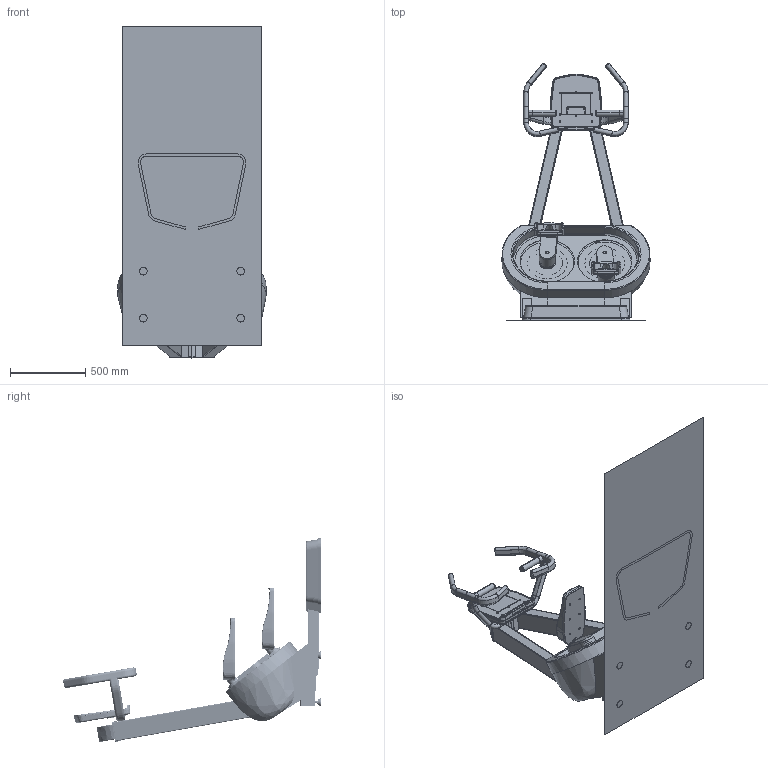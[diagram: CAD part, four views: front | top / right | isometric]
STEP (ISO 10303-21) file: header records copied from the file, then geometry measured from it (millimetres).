
FILE_DESCRIPTION (( 'STEP AP214' ), '1' );
FILE_NAME ('MR04_TILTED_03-06-2015_A.STEP', '2015-03-06T13:47:26', ( 'Andrew_Grove' ), ( 'Microsoft' ), 'SwSTEP 2.0', 'SolidWorks 2014', '' );
FILE_SCHEMA (( 'AUTOMOTIVE_DESIGN' ));
Length unit declared in the file: millimetre
Products named in the file (29): MR04_CONVERTABLE_FRAME_01_VERSION_03; GENERATOR_BRACKET_02; CRANK_ASSEMBLY_SIMPLIFIED_01_OPP_HAND_TILTED; MR04_TILTED_03-06-2015_A; CRANK_ASSEMBLY_SIMPLIFIED_01_TILTED_PEDAL_01; T_&_R_CRANK_COVER_01; MAIN_GEAR_SIMPLIFIED_01; Double D Washer; Spindle 9-29-2014; PEDAL_SHAFT_GEAR_SIMPLIFIED_01; R_&_T_SHROUD_01_TILTED_01; circlip for center bearing_Circlip DIN 471 - 20 x 1.2; S70_CONSOLE_06_TFT_05; CRANK_CENTER_GEAR_SIMPLIFIED_01; center T-stabilizer Foot step; M25 x 1 nut with set screws___; HANDLEBAR_01_CONNECTED_HANDLEBAR_01; PEDAL_ASSEMBLY_SIMPLIFIED_01_TILTED_01; FLOOR_01; RING_GEAR_SIMPLIFIED_01; PROTEUS_SEAT_01_VERSION_04; Pedal Part_TILTED_01_02-14-2015_VERSION; MR04_CONVERTABLE_FRAME_ASSEMBLY_01_TILTED_PEDALS_01; 14mm Nut___; SIMPLIFIED_JACK_SHAFT_01; M25 x 1 nut with set screws-Wide___; GENERATOR_ASSEMBLY_02; Crank 9-30-2014 Modified for 8mm Bolts_3 o clock (70-50-05) Rev-1; FB33D001_GENERATOR
Assembly tree (40 placements, depth 5):
  MR04_TILTED_03-06-2015_A
    MR04_CONVERTABLE_FRAME_ASSEMBLY_01_TILTED_PEDALS_01
      MR04_CONVERTABLE_FRAME_01_VERSION_03
      CRANK_ASSEMBLY_SIMPLIFIED_01_TILTED_PEDAL_01
        Crank 9-30-2014 Modified for 8mm Bolts_3 o clock (70-50-05) Rev-1
        M25 x 1 nut with set screws-Wide___
        14mm Nut___
        PEDAL_ASSEMBLY_SIMPLIFIED_01_TILTED_01
          Pedal Part_TILTED_01_02-14-2015_VERSION
          RING_GEAR_SIMPLIFIED_01
        M25 x 1 nut with set screws___
        CRANK_CENTER_GEAR_SIMPLIFIED_01
        circlip for center bearing_Circlip DIN 471 - 20 x 1.2
        PEDAL_SHAFT_GEAR_SIMPLIFIED_01
        Spindle 9-29-2014
        Double D Washer
        MAIN_GEAR_SIMPLIFIED_01
        T_&_R_CRANK_COVER_01
      CRANK_ASSEMBLY_SIMPLIFIED_01_OPP_HAND_TILTED
        Crank 9-30-2014 Modified for 8mm Bolts_3 o clock (70-50-05) Rev-1
        M25 x 1 nut with set screws-Wide___
        14mm Nut___
        PEDAL_ASSEMBLY_SIMPLIFIED_01_TILTED_01
          Pedal Part_TILTED_01_02-14-2015_VERSION
          RING_GEAR_SIMPLIFIED_01
        M25 x 1 nut with set screws___
        CRANK_CENTER_GEAR_SIMPLIFIED_01
        circlip for center bearing_Circlip DIN 471 - 20 x 1.2
        PEDAL_SHAFT_GEAR_SIMPLIFIED_01
        Spindle 9-29-2014
        Double D Washer
        MAIN_GEAR_SIMPLIFIED_01
        T_&_R_CRANK_COVER_01
      GENERATOR_ASSEMBLY_02
        GENERATOR_BRACKET_02
        FB33D001_GENERATOR
      SIMPLIFIED_JACK_SHAFT_01
    PROTEUS_SEAT_01_VERSION_04
    FLOOR_01
    HANDLEBAR_01_CONNECTED_HANDLEBAR_01
    center T-stabilizer Foot step
    S70_CONSOLE_06_TFT_05
    R_&_T_SHROUD_01_TILTED_01
Bounding box: 981.69 x 1705.55 x 2199.79 mm (x, y, z)
Volume: 22938649.5 mm3; surface area: 12736251.1 mm2
Topology: 79 solids, 103 shells, 4552 faces, 11389 edges, 7060 vertices
Faces by surface type: cylinder 1441, bspline 1095, plane 943, cone 616, torus 437, sphere 20
Entity records: 141972 total; most frequent: CARTESIAN_POINT 67416, ORIENTED_EDGE 15232, DIRECTION 14108, EDGE_CURVE 7711, AXIS2_PLACEMENT_3D 5490, VERTEX_POINT 4805, EDGE_LOOP 3401, FACE_OUTER_BOUND 3131
